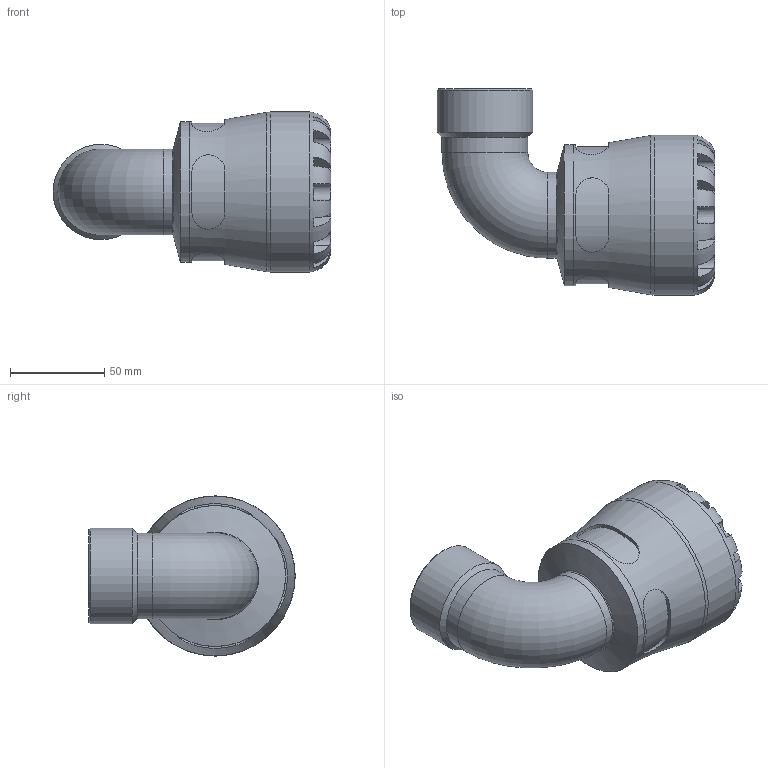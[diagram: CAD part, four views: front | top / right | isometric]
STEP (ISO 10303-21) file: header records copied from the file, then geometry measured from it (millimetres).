
FILE_DESCRIPTION(/* description */ ('PLASSON 90° ELBOW WITH FEMALE INTEGRAL BRASS 50X1.1/4" SERIES 1'),/* implementation_level */ '2;1');
FILE_NAME(/* name */ 'C:\Dropbox\KIMPROJECTS-Inventor\99-16-3568-Processing\1076\107600050013_197600050013.ipt.step',/* time_stamp */ '2017-05-18T12:03:40+03:00',/* author */ ('KIM'),/* organization */ (''),/* preprocessor_version */ 'ST-DEVELOPER v15.6',/* originating_system */ 'Autodesk Inventor 2015',/* authorisation */ '');
FILE_SCHEMA (('AUTOMOTIVE_DESIGN { 1 0 10303 214 3 1 1 }'));
Length unit declared in the file: millimetre
Products named in the file (1): 107600050013_197600050013
Bounding box: 147.32 x 109.5 x 85 mm (x, y, z)
Volume: 310146.3 mm3; surface area: 67187.8 mm2
Topology: 1 solids, 1 shells, 108 faces, 265 edges, 164 vertices
Faces by surface type: plane 60, cylinder 37, torus 6, cone 5
Full cylindrical faces by diameter (mm): 35.057 x2, 38.952 x1, 45.574 x2, 50 x1, 50.638 x1, 74.8 x1, 85 x1
Entity records: 3980 total; most frequent: CARTESIAN_POINT 1455, DIRECTION 488, ORIENTED_EDGE 478, EDGE_CURVE 239, AXIS2_PLACEMENT_3D 204, VERTEX_POINT 159, EDGE_LOOP 136, STYLED_ITEM 109
